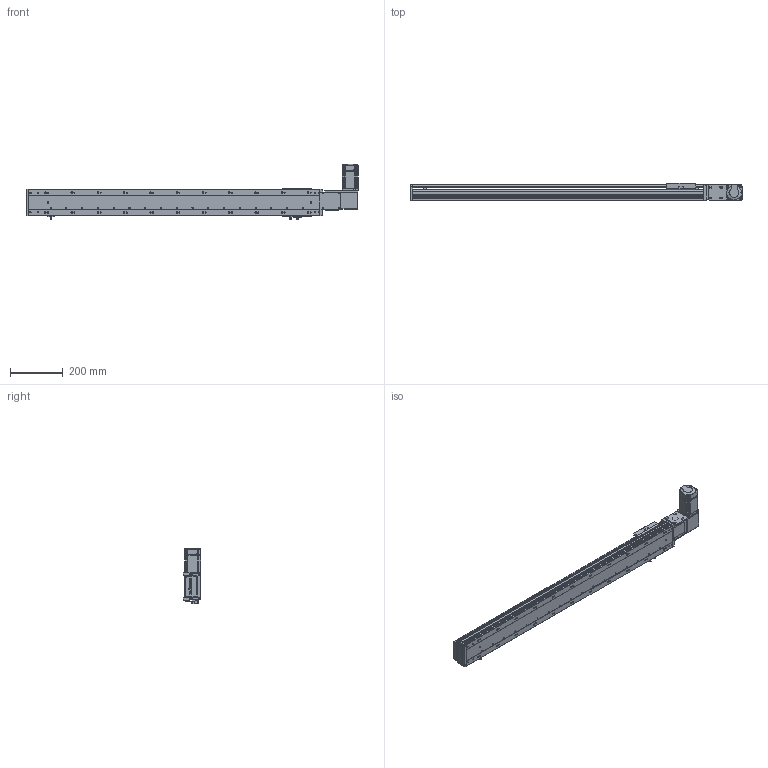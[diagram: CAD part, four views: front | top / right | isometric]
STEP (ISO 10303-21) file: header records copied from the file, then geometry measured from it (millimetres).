
FILE_DESCRIPTION (( 'STEP AP203' ), '1' );
FILE_NAME ('RY100-T-300-RK.SLDASM_900.step', '2024-04-25T08:22:25', ( '盈信电脑' ), ( '东莞市道滘镇水果街19号' ), 'SwSTEP 2.0', 'SolidWorks 2016', '' );
FILE_SCHEMA (( 'CONFIG_CONTROL_DESIGN' ));
Length unit declared in the file: millimetre
Products named in the file (15): 覜茼ん672; 侂狟200W萇儂; RY100-T肮祭謫翋盓傅釱; RY80-T肮祭謫俋欶; 滅袉蝶18-10; RY100-T翋肮祭謫裔啣2; RY100-T肮祭謫臏賑輸; RY100-T-300-RK.SLDASM_900; RY100俋离覜茼え; RY100-T-300-RK倰第菁釱_900; RY100-T左右折电机安装板; RY100-T-300-RK倰第奻裔_900; 1; RY100-T粣創揤踡裔; RY100綴裔啣
Assembly tree (18 placements, depth 3):
  RY100-T-300-RK.SLDASM_900
    RY100-T-300-RK倰第菁釱_900
    RY100-T-300-RK倰第奻裔_900
    RY100-T肮祭謫臏賑輸
    RY100綴裔啣
    覜茼ん672  x3
    RY100俋离覜茼え
    RY100-T肮祭謫翋盓傅釱
    RY100-T左右折电机安装板
    侂狟200W萇儂
      1
    RY100-T粣創揤踡裔
    滅袉蝶18-10  x2
    RY100-T翋肮祭謫裔啣2  x2
    RY80-T肮祭謫俋欶
Bounding box: 1264 x 66 x 209.7 mm (x, y, z)
Volume: 2460583.1 mm3; surface area: 1010346.9 mm2
Topology: 17 solids, 17 shells, 2267 faces, 6347 edges, 4129 vertices
Faces by surface type: plane 1205, cylinder 845, cone 139, bspline 78
Entity records: 73373 total; most frequent: CARTESIAN_POINT 18075, ORIENTED_EDGE 11430, DIRECTION 10823, EDGE_CURVE 5715, VERTEX_POINT 3765, VECTOR 3631, LINE 3631, AXIS2_PLACEMENT_3D 3596
